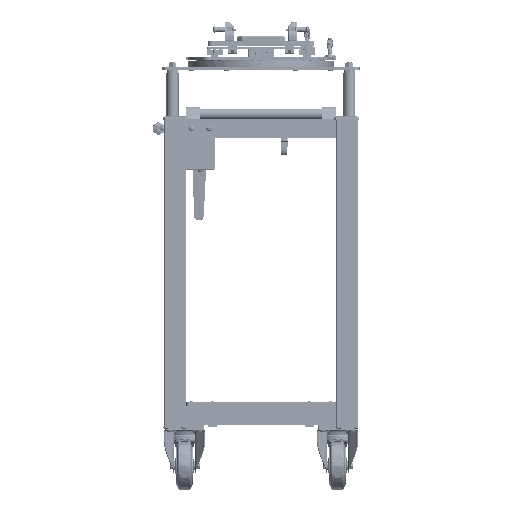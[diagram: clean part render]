
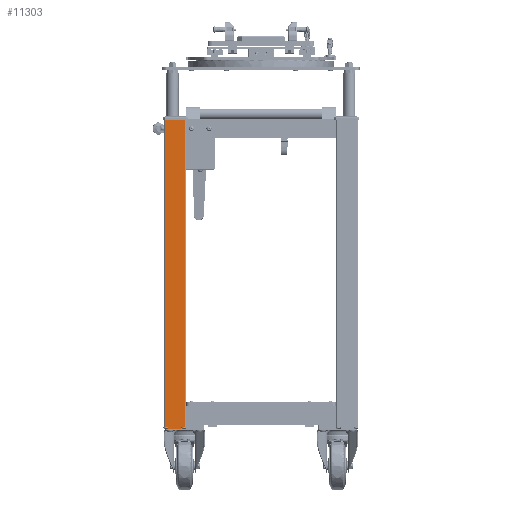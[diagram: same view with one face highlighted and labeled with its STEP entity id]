
A CAD part, left-side view. The second image highlights one B-rep face of the part: STEP entity #11303.
In plain terms, the highlighted planar face has unit normal (-1, 0, 0).
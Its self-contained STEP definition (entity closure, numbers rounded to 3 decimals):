
#11228=AXIS2_PLACEMENT_3D('Plane Axis2P3D',#11225,#11226,#11227) ;
#10253=CARTESIAN_POINT('Vertex',(-292.532,0.873,-187.396)) ;
#10256=CARTESIAN_POINT('Line Origine',(-292.532,0.873,128.404)) ;
#10260=CARTESIAN_POINT('Vertex',(-292.532,0.873,444.204)) ;
#11225=CARTESIAN_POINT('Axis2P3D Location',(-292.532,-40.127,-191.796)) ;
#11230=CARTESIAN_POINT('Line Origine',(-292.532,-32.927,-189.596)) ;
#11234=CARTESIAN_POINT('Vertex',(-292.532,-32.927,-191.796)) ;
#11236=CARTESIAN_POINT('Vertex',(-292.532,-32.927,-187.396)) ;
#11239=CARTESIAN_POINT('Line Origine',(-292.532,-34.246,-187.396)) ;
#11243=CARTESIAN_POINT('Vertex',(-292.532,-35.565,-187.396)) ;
#11246=CARTESIAN_POINT('Line Origine',(-292.532,-37.846,-187.396)) ;
#11250=CARTESIAN_POINT('Vertex',(-292.532,-40.127,-187.396)) ;
#11253=CARTESIAN_POINT('Line Origine',(-292.532,-40.127,128.404)) ;
#11257=CARTESIAN_POINT('Vertex',(-292.532,-40.127,444.204)) ;
#11260=CARTESIAN_POINT('Line Origine',(-292.532,-19.627,444.204)) ;
#11265=CARTESIAN_POINT('Line Origine',(-292.532,-1.408,-187.396)) ;
#11269=CARTESIAN_POINT('Vertex',(-292.532,-3.688,-187.396)) ;
#11272=CARTESIAN_POINT('Line Origine',(-292.532,-5.008,-187.396)) ;
#11276=CARTESIAN_POINT('Vertex',(-292.532,-6.327,-187.396)) ;
#11279=CARTESIAN_POINT('Line Origine',(-292.532,-6.327,-189.596)) ;
#11283=CARTESIAN_POINT('Vertex',(-292.532,-6.327,-191.796)) ;
#11286=CARTESIAN_POINT('Line Origine',(-292.532,-19.627,-191.796)) ;
#10257=DIRECTION('Vector Direction',(0.,0.,-1.)) ;
#11226=DIRECTION('Axis2P3D Direction',(1.,0.,0.)) ;
#11227=DIRECTION('Axis2P3D XDirection',(0.,1.,0.)) ;
#11231=DIRECTION('Vector Direction',(0.,0.,1.)) ;
#11240=DIRECTION('Vector Direction',(0.,1.,0.)) ;
#11247=DIRECTION('Vector Direction',(0.,1.,0.)) ;
#11254=DIRECTION('Vector Direction',(0.,0.,-1.)) ;
#11261=DIRECTION('Vector Direction',(0.,-1.,0.)) ;
#11266=DIRECTION('Vector Direction',(0.,1.,0.)) ;
#11273=DIRECTION('Vector Direction',(0.,1.,0.)) ;
#11280=DIRECTION('Vector Direction',(0.,0.,1.)) ;
#11287=DIRECTION('Vector Direction',(0.,1.,0.)) ;
#10258=VECTOR('Line Direction',#10257,1.) ;
#11232=VECTOR('Line Direction',#11231,1.) ;
#11241=VECTOR('Line Direction',#11240,1.) ;
#11248=VECTOR('Line Direction',#11247,1.) ;
#11255=VECTOR('Line Direction',#11254,1.) ;
#11262=VECTOR('Line Direction',#11261,1.) ;
#11267=VECTOR('Line Direction',#11266,1.) ;
#11274=VECTOR('Line Direction',#11273,1.) ;
#11281=VECTOR('Line Direction',#11280,1.) ;
#11288=VECTOR('Line Direction',#11287,1.) ;
#11292=ORIENTED_EDGE('',*,*,#11238,.T.) ;
#11293=ORIENTED_EDGE('',*,*,#11245,.T.) ;
#11294=ORIENTED_EDGE('',*,*,#11252,.T.) ;
#11295=ORIENTED_EDGE('',*,*,#11259,.F.) ;
#11296=ORIENTED_EDGE('',*,*,#11264,.F.) ;
#11297=ORIENTED_EDGE('',*,*,#10262,.T.) ;
#11298=ORIENTED_EDGE('',*,*,#11271,.T.) ;
#11299=ORIENTED_EDGE('',*,*,#11278,.T.) ;
#11300=ORIENTED_EDGE('',*,*,#11285,.F.) ;
#11301=ORIENTED_EDGE('',*,*,#11290,.T.) ;
#11303=ADVANCED_FACE('Brep With Voids.1',(#11302),#11229,.F.) ;
#10262=EDGE_CURVE('',#10261,#10254,#10259,.T.) ;
#11238=EDGE_CURVE('',#11235,#11237,#11233,.T.) ;
#11245=EDGE_CURVE('',#11237,#11244,#11242,.F.) ;
#11252=EDGE_CURVE('',#11244,#11251,#11249,.F.) ;
#11259=EDGE_CURVE('',#11258,#11251,#11256,.T.) ;
#11264=EDGE_CURVE('',#10261,#11258,#11263,.T.) ;
#11271=EDGE_CURVE('',#10254,#11270,#11268,.F.) ;
#11278=EDGE_CURVE('',#11270,#11277,#11275,.F.) ;
#11285=EDGE_CURVE('',#11284,#11277,#11282,.T.) ;
#11290=EDGE_CURVE('',#11284,#11235,#11289,.F.) ;
#11291=EDGE_LOOP('',(#11292,#11293,#11294,#11295,#11296,#11297,#11298,#11299,#11300,#11301)) ;
#11302=FACE_OUTER_BOUND('',#11291,.T.) ;
#10259=LINE('Line',#10256,#10258) ;
#11233=LINE('Line',#11230,#11232) ;
#11242=LINE('Line',#11239,#11241) ;
#11249=LINE('Line',#11246,#11248) ;
#11256=LINE('Line',#11253,#11255) ;
#11263=LINE('Line',#11260,#11262) ;
#11268=LINE('Line',#11265,#11267) ;
#11275=LINE('Line',#11272,#11274) ;
#11282=LINE('Line',#11279,#11281) ;
#11289=LINE('Line',#11286,#11288) ;
#11229=PLANE('',#11228) ;
#10254=VERTEX_POINT('',#10253) ;
#10261=VERTEX_POINT('',#10260) ;
#11235=VERTEX_POINT('',#11234) ;
#11237=VERTEX_POINT('',#11236) ;
#11244=VERTEX_POINT('',#11243) ;
#11251=VERTEX_POINT('',#11250) ;
#11258=VERTEX_POINT('',#11257) ;
#11270=VERTEX_POINT('',#11269) ;
#11277=VERTEX_POINT('',#11276) ;
#11284=VERTEX_POINT('',#11283) ;
